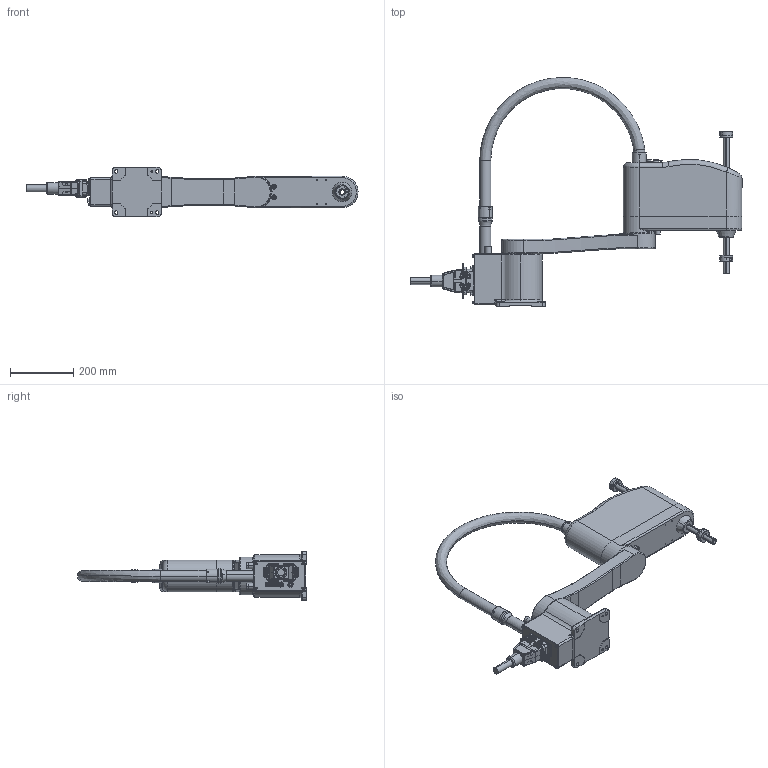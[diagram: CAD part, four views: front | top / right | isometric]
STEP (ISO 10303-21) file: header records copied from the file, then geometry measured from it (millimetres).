
FILE_DESCRIPTION (( 'STEP AP214' ), '1' );
FILE_NAME ('TS650-03-A机器人模型.STEP', '2018-11-05T04:06:06', ( 'Topstarltd' ), ( 'Topstarltd.Com' ), 'SwSTEP 2.0', 'SolidWorks 2016', '' );
FILE_SCHEMA (( 'AUTOMOTIVE_DESIGN' ));
Length unit declared in the file: millimetre
Products named in the file (33): 俋褲; 嘐隅奪郪璃1; 三轴座; 快速接頭_M32公制33_預設; TSR0032-115-0 嘐隅奪; TS650-03-A机器人模型; GB70-85_M8x20; 重载连接器组件模型.SLDPRT; 苤噤鞠褒倛盓翐M3x4-6; d-sub 15渀鼠芛; H10B-BK-2L_SC_V1.0; GB／T95-2002平垫圈C级4×0．8; 防撞垫圈组件; GB70-85_M4x8; GB70-85_M3X6; 重载连接器安装板模型; GB70-85_M5x20; 滅袉輸_蕼偞; TSR0032-416-0癹弇滅袉菜; 珨粣釱; TSR0032-415-0限位固定圈; 蛌旋; d-sub 15渀譫芛; 誘裔; 疏慶奪_ ; 佪話_錨璃靡備; GB70-85_M6x16; SQMH-6-6_蕼偞; TSR0032-203-0媼粣滅袉輸_蕼偞; 偌聽; 珨粣郪璃耀倰; 快速接頭_M32公制_預設; H10B-TEH-4B-M25
Assembly tree (56 placements, depth 4):
  TS650-03-A机器人模型
    三轴座
    俋褲
    快速接頭_M32公制_預設
    偌聽
    SQMH-6-6_蕼偞  x2
    佪話_錨璃靡備
    誘裔
    蛌旋
    珨粣郪璃耀倰
      珨粣釱
      滅袉輸_蕼偞  x2
      重载连接器组件模型.SLDPRT
        重载连接器安装板模型
        SQMH-6-6_蕼偞  x2
        GB70-85_M4x8  x4
        GB／T95-2002平垫圈C级4×0．8  x4
        H10B-BK-2L_SC_V1.0
        d-sub 15渀鼠芛
        苤噤鞠褒倛盓翐M3x4-6  x2
      GB70-85_M4x8  x4
      GB70-85_M8x20  x2
      嘐隅奪郪璃1
        TSR0032-115-0 嘐隅奪
        快速接頭_M32公制33_預設
      H10B-TEH-4B-M25
    TSR0032-203-0媼粣滅袉輸_蕼偞  x2
    GB70-85_M6x16  x2
    疏慶奪_ 
    d-sub 15渀譫芛
    苤噤鞠褒倛盓翐M3x4-6  x2
    防撞垫圈组件  x2
      TSR0032-415-0限位固定圈
      TSR0032-416-0癹弇滅袉菜
      GB70-85_M5x20
      GB70-85_M3X6
Bounding box: 1050.2 x 724.05 x 155 mm (x, y, z)
Volume: 14303014.2 mm3; surface area: 1041234.1 mm2
Topology: 61 solids, 64 shells, 3469 faces, 8735 edges, 5609 vertices
Faces by surface type: plane 1438, cylinder 1156, bspline 471, cone 243, torus 161
Entity records: 117338 total; most frequent: CARTESIAN_POINT 50152, ORIENTED_EDGE 14592, DIRECTION 11280, EDGE_CURVE 7296, VERTEX_POINT 4756, AXIS2_PLACEMENT_3D 3992, VECTOR 3296, LINE 3296
